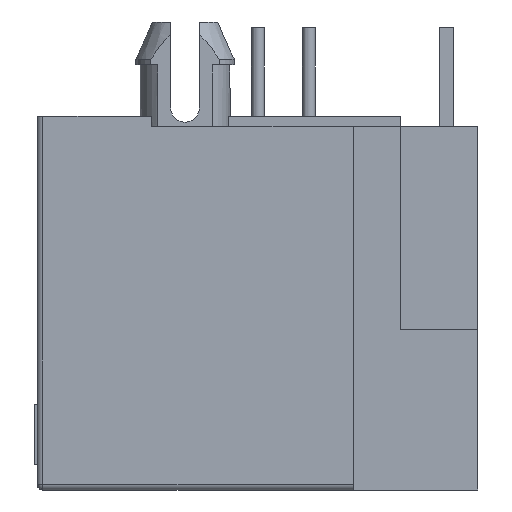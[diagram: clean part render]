
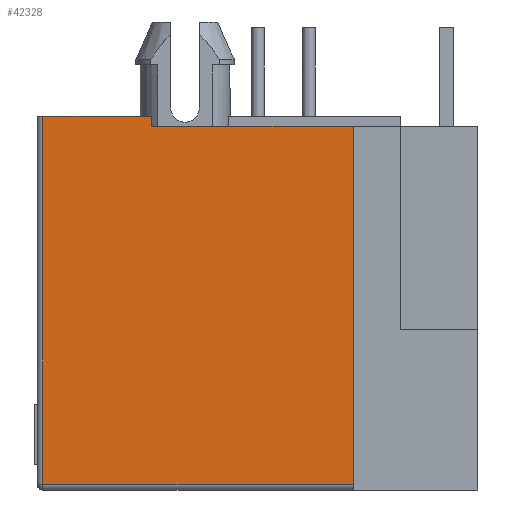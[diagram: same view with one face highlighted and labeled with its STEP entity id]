
A CAD part, left-side view. The second image highlights one B-rep face of the part: STEP entity #42328.
In plain terms, the highlighted planar face has unit normal (-1, 0, 0).
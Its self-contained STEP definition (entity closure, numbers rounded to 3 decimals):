
#1607=DIRECTION('',(0.,0.,-1.));
#1608=VECTOR('',#1607,12.85);
#1609=CARTESIAN_POINT('',(-31.65,7.5,13.4));
#1610=LINE('',#1609,#1608);
#1815=DIRECTION('',(0.,-1.,0.));
#1816=VECTOR('',#1815,7.05);
#1817=CARTESIAN_POINT('',(-31.65,3.7,13.05));
#1818=LINE('',#1817,#1816);
#14389=DIRECTION('',(0.,-1.,0.));
#14390=VECTOR('',#14389,10.85);
#14391=CARTESIAN_POINT('',(-31.65,7.5,0.55));
#14392=LINE('',#14391,#14390);
#14393=DIRECTION('',(0.,-1.,0.));
#14394=VECTOR('',#14393,3.8);
#14395=CARTESIAN_POINT('',(-31.65,7.5,13.4));
#14396=LINE('',#14395,#14394);
#14397=DIRECTION('',(0.,0.,-1.));
#14398=VECTOR('',#14397,12.5);
#14399=CARTESIAN_POINT('',(-31.65,-3.35,13.05));
#14400=LINE('',#14399,#14398);
#14401=DIRECTION('',(0.,0.,1.));
#14402=VECTOR('',#14401,0.35);
#14403=CARTESIAN_POINT('',(-31.65,3.7,13.05));
#14404=LINE('',#14403,#14402);
#19357=CARTESIAN_POINT('',(-31.65,7.5,0.55));
#19358=VERTEX_POINT('',#19357);
#19359=CARTESIAN_POINT('',(-31.65,7.5,13.4));
#19360=VERTEX_POINT('',#19359);
#19365=CARTESIAN_POINT('',(-31.65,3.7,13.4));
#19366=VERTEX_POINT('',#19365);
#21927=CARTESIAN_POINT('',(-31.65,-3.35,0.55));
#21928=VERTEX_POINT('',#21927);
#21929=CARTESIAN_POINT('',(-31.65,-3.35,13.05));
#21930=VERTEX_POINT('',#21929);
#21931=CARTESIAN_POINT('',(-31.65,3.7,13.05));
#21932=VERTEX_POINT('',#21931);
#42314=CARTESIAN_POINT('',(-31.65,2.075,6.975));
#42315=DIRECTION('',(1.,0.,0.));
#42316=DIRECTION('',(0.,0.,1.));
#42317=AXIS2_PLACEMENT_3D('',#42314,#42315,#42316);
#42318=PLANE('',#42317);
#42319=ORIENTED_EDGE('',*,*,#26686,.F.);
#42320=ORIENTED_EDGE('',*,*,#26706,.T.);
#42322=ORIENTED_EDGE('',*,*,#42321,.F.);
#42323=ORIENTED_EDGE('',*,*,#26929,.T.);
#42324=ORIENTED_EDGE('',*,*,#42293,.T.);
#42325=ORIENTED_EDGE('',*,*,#42309,.F.);
#42326=EDGE_LOOP('',(#42319,#42320,#42322,#42323,#42324,#42325));
#42327=FACE_OUTER_BOUND('',#42326,.F.);
#42328=ADVANCED_FACE('',(#42327),#42318,.F.);
#26686=EDGE_CURVE('',#19360,#19358,#1610,.T.);
#26706=EDGE_CURVE('',#19360,#19366,#14396,.T.);
#26929=EDGE_CURVE('',#21932,#21930,#1818,.T.);
#42293=EDGE_CURVE('',#21930,#21928,#14400,.T.);
#42309=EDGE_CURVE('',#19358,#21928,#14392,.T.);
#42321=EDGE_CURVE('',#21932,#19366,#14404,.T.);
